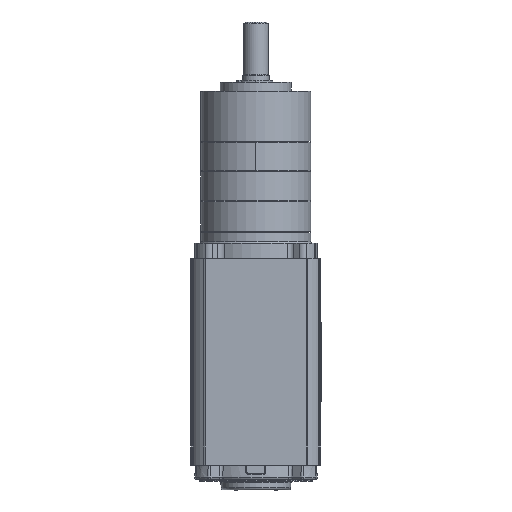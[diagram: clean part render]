
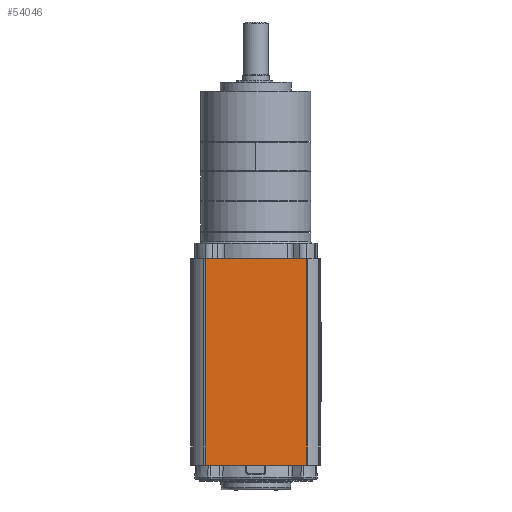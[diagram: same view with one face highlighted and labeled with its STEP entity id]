
A CAD part, front view. The second image highlights one B-rep face of the part: STEP entity #54046.
In plain terms, the highlighted planar face has unit normal (0, -1, 0).
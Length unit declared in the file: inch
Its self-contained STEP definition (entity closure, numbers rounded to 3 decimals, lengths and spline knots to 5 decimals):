
#381 = CARTESIAN_POINT ( 'NONE',  ( 1.1275, -1.442, -6.41754 ) ) ;
#2151 = LINE ( 'NONE', #43205, #25572 ) ;
#4090 = DIRECTION ( 'NONE',  ( 0., 0., 1. ) ) ;
#4312 = CARTESIAN_POINT ( 'NONE',  ( -1.1475, -1.442, -6.55254 ) ) ;
#7855 = VECTOR ( 'NONE', #30707, 39.37008 ) ;
#8773 = DIRECTION ( 'NONE',  ( 1., 0., 0. ) ) ;
#9061 = CARTESIAN_POINT ( 'NONE',  ( -1.1275, -1.442, -6.55254 ) ) ;
#10666 = VECTOR ( 'NONE', #17928, 39.37008 ) ;
#14774 = CARTESIAN_POINT ( 'NONE',  ( -1.1275, -1.442, -1.83454 ) ) ;
#17928 = DIRECTION ( 'NONE',  ( 1., 0., 0. ) ) ;
#18981 = CARTESIAN_POINT ( 'NONE',  ( 1.1275, -1.442, -6.41754 ) ) ;
#22377 = LINE ( 'NONE', #34964, #10666 ) ;
#23566 = FACE_OUTER_BOUND ( 'NONE', #36962, .T. ) ;
#24241 = VERTEX_POINT ( 'NONE', #18981 ) ;
#25410 = PLANE ( 'NONE',  #42859 ) ;
#25572 = VECTOR ( 'NONE', #4090, 39.37008 ) ;
#28568 = CARTESIAN_POINT ( 'NONE',  ( -1.1275, -1.442, -6.41754 ) ) ;
#28728 = EDGE_CURVE ( 'NONE', #49552, #44281, #22377, .T. ) ;
#30707 = DIRECTION ( 'NONE',  ( 0., 0., -1. ) ) ;
#30963 = DIRECTION ( 'NONE',  ( -1., 0., 0. ) ) ;
#31693 = EDGE_CURVE ( 'NONE', #24241, #55409, #43532, .T. ) ;
#32044 = VECTOR ( 'NONE', #30963, 39.37008 ) ;
#34429 = EDGE_CURVE ( 'NONE', #49552, #55409, #42404, .T. ) ;
#34675 = DIRECTION ( 'NONE',  ( 0., -1., 0. ) ) ;
#34964 = CARTESIAN_POINT ( 'NONE',  ( -1.1475, -1.442, -1.83454 ) ) ;
#36271 = ORIENTED_EDGE ( 'NONE', *, *, #36921, .T. ) ;
#36921 = EDGE_CURVE ( 'NONE', #24241, #44281, #2151, .T. ) ;
#36962 = EDGE_LOOP ( 'NONE', ( #40132, #40544, #36271, #39362 ) ) ;
#39362 = ORIENTED_EDGE ( 'NONE', *, *, #28728, .F. ) ;
#40132 = ORIENTED_EDGE ( 'NONE', *, *, #34429, .T. ) ;
#40544 = ORIENTED_EDGE ( 'NONE', *, *, #31693, .F. ) ;
#42404 = LINE ( 'NONE', #9061, #7855 ) ;
#42859 = AXIS2_PLACEMENT_3D ( 'NONE', #4312, #34675, #8773 ) ;
#43205 = CARTESIAN_POINT ( 'NONE',  ( 1.1275, -1.442, -6.55254 ) ) ;
#43532 = LINE ( 'NONE', #381, #32044 ) ;
#44281 = VERTEX_POINT ( 'NONE', #45216 ) ;
#45216 = CARTESIAN_POINT ( 'NONE',  ( 1.1275, -1.442, -1.83454 ) ) ;
#49552 = VERTEX_POINT ( 'NONE', #14774 ) ;
#54046 = ADVANCED_FACE ( 'NONE', ( #23566 ), #25410, .T. ) ;
#55409 = VERTEX_POINT ( 'NONE', #28568 ) ;
